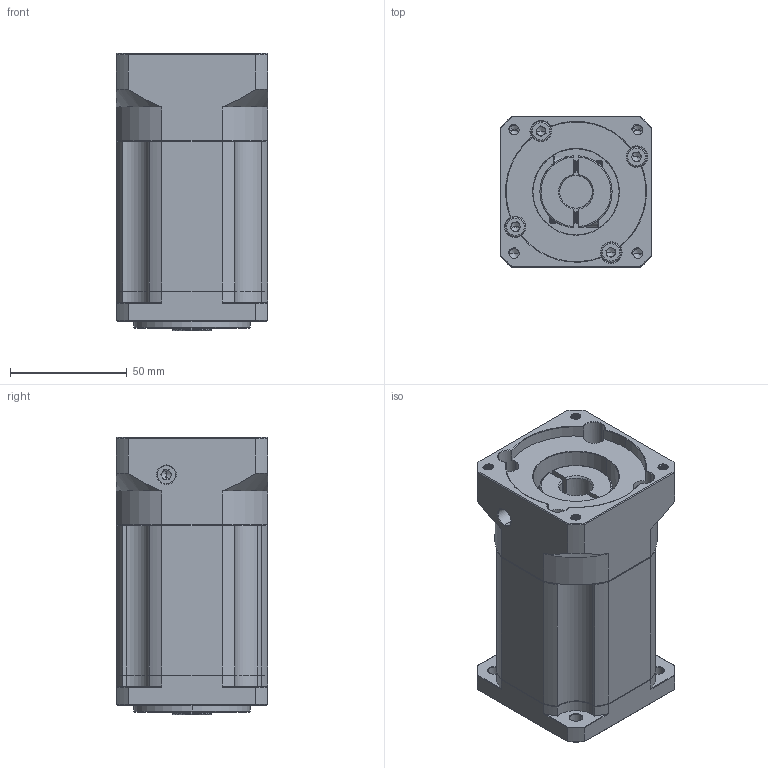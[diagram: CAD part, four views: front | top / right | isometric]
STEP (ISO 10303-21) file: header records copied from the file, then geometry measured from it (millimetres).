
FILE_DESCRIPTION (( 'STEP AP214' ), '1' );
FILE_NAME ('ZB60-K10-L3-14-60-75-M5.STEP', '2022-04-17T07:39:10', ( '' ), ( 'Microsoft' ), 'SwSTEP 2.0', 'SolidWorks 2016', '' );
FILE_SCHEMA (( 'AUTOMOTIVE_DESIGN' ));
Length unit declared in the file: millimetre
Products named in the file (1): ZB60-K10-L3-14-60-75-M5
Bounding box: 65 x 65 x 119 mm (x, y, z)
Volume: 378658.6 mm3; surface area: 61452.8 mm2
Topology: 6 solids, 6 shells, 1841 faces, 4890 edges, 3131 vertices
Faces by surface type: plane 876, cylinder 357, bspline 292, cone 282, torus 34
Entity records: 96283 total; most frequent: CARTESIAN_POINT 32405, ORIENTED_EDGE 9724, DIRECTION 8061, EDGE_CURVE 4862, VERTEX_POINT 3131, VECTOR 2987, LINE 2987, AXIS2_PLACEMENT_3D 2537
